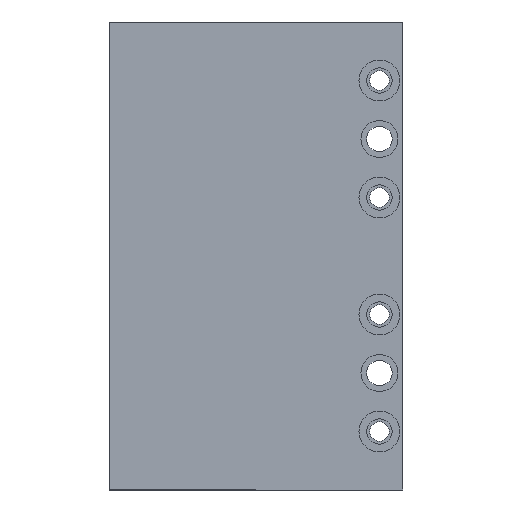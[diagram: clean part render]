
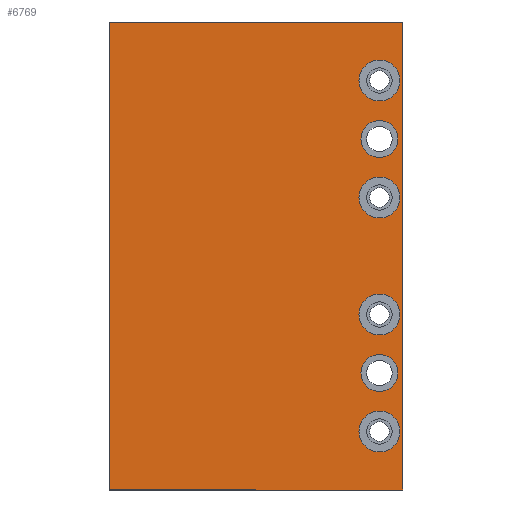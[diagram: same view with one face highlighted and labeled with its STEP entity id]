
A CAD part, left-side view. The second image highlights one B-rep face of the part: STEP entity #6769.
In plain terms, the highlighted planar face has unit normal (-1, 0, 0).
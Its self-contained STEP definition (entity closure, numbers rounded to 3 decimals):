
#35 = EDGE_CURVE ( 'NONE', #11689, #5833, #5302, .T. ) ;
#105 = AXIS2_PLACEMENT_3D ( 'NONE', #2852, #9245, #2821 ) ;
#115 = CIRCLE ( 'NONE', #4381, 5.25 ) ;
#137 = CIRCLE ( 'NONE', #7483, 5.25 ) ;
#184 = CARTESIAN_POINT ( 'NONE',  ( -38.6, 6., 45. ) ) ;
#267 = CARTESIAN_POINT ( 'NONE',  ( -38.6, 6., 15. ) ) ;
#295 = CARTESIAN_POINT ( 'NONE',  ( -38.6, 10.75, 30. ) ) ;
#322 = FACE_BOUND ( 'NONE', #5642, .T. ) ;
#344 = EDGE_CURVE ( 'NONE', #7470, #3552, #10180, .T. ) ;
#437 = AXIS2_PLACEMENT_3D ( 'NONE', #184, #6553, #11095 ) ;
#729 = CARTESIAN_POINT ( 'NONE',  ( -38.6, 75.3, 0. ) ) ;
#803 = ORIENTED_EDGE ( 'NONE', *, *, #11088, .F. ) ;
#931 = VERTEX_POINT ( 'NONE', #10172 ) ;
#966 = CARTESIAN_POINT ( 'NONE',  ( -38.6, 37.65, 60. ) ) ;
#980 = ORIENTED_EDGE ( 'NONE', *, *, #1464, .T. ) ;
#1113 = DIRECTION ( 'NONE',  ( 0., -1., 0. ) ) ;
#1130 = DIRECTION ( 'NONE',  ( -1., 0., 0. ) ) ;
#1390 = CARTESIAN_POINT ( 'NONE',  ( -38.6, 11.25, 45. ) ) ;
#1407 = DIRECTION ( 'NONE',  ( 0., -1., 0. ) ) ;
#1442 = CARTESIAN_POINT ( 'NONE',  ( -38.6, 10.75, 90. ) ) ;
#1464 = EDGE_CURVE ( 'NONE', #4750, #4324, #11449, .T. ) ;
#1476 = DIRECTION ( 'NONE',  ( 0., -1., 0. ) ) ;
#1488 = DIRECTION ( 'NONE',  ( -1., 0., 0. ) ) ;
#1693 = EDGE_CURVE ( 'NONE', #2824, #11087, #11296, .T. ) ;
#1891 = VECTOR ( 'NONE', #4519, 1000. ) ;
#1952 = ORIENTED_EDGE ( 'NONE', *, *, #7499, .F. ) ;
#1977 = DIRECTION ( 'NONE',  ( -1., 0., 0. ) ) ;
#2038 = AXIS2_PLACEMENT_3D ( 'NONE', #4078, #10573, #1476 ) ;
#2072 = DIRECTION ( 'NONE',  ( 0., -1., 0. ) ) ;
#2099 = VERTEX_POINT ( 'NONE', #6983 ) ;
#2173 = DIRECTION ( 'NONE',  ( -1., 0., 0. ) ) ;
#2181 = DIRECTION ( 'NONE',  ( -1., 0., 0. ) ) ;
#2253 = DIRECTION ( 'NONE',  ( -1., 0., 0. ) ) ;
#2525 = EDGE_LOOP ( 'NONE', ( #10352, #4461 ) ) ;
#2543 = DIRECTION ( 'NONE',  ( 0., -1., 0. ) ) ;
#2608 = AXIS2_PLACEMENT_3D ( 'NONE', #267, #10615, #7735 ) ;
#2744 = EDGE_CURVE ( 'NONE', #8317, #9536, #3780, .T. ) ;
#2821 = DIRECTION ( 'NONE',  ( 0., -1., 0. ) ) ;
#2824 = VERTEX_POINT ( 'NONE', #7364 ) ;
#2844 = AXIS2_PLACEMENT_3D ( 'NONE', #5121, #1488, #1407 ) ;
#2852 = CARTESIAN_POINT ( 'NONE',  ( -38.6, 6., 105. ) ) ;
#2856 = PLANE ( 'NONE',  #9575 ) ;
#3001 = EDGE_CURVE ( 'NONE', #2099, #11130, #10367, .T. ) ;
#3007 = ORIENTED_EDGE ( 'NONE', *, *, #10992, .F. ) ;
#3058 = FACE_BOUND ( 'NONE', #4619, .T. ) ;
#3438 = CIRCLE ( 'NONE', #2608, 5.25 ) ;
#3488 = EDGE_LOOP ( 'NONE', ( #5252, #11513 ) ) ;
#3552 = VERTEX_POINT ( 'NONE', #1442 ) ;
#3600 = EDGE_CURVE ( 'NONE', #5236, #931, #3438, .T. ) ;
#3780 = CIRCLE ( 'NONE', #105, 5.25 ) ;
#3811 = ORIENTED_EDGE ( 'NONE', *, *, #7437, .F. ) ;
#3884 = CARTESIAN_POINT ( 'NONE',  ( -38.6, 6., 105. ) ) ;
#4011 = CARTESIAN_POINT ( 'NONE',  ( -38.6, 6., 45. ) ) ;
#4068 = DIRECTION ( 'NONE',  ( 0., 1., 0. ) ) ;
#4078 = CARTESIAN_POINT ( 'NONE',  ( -38.6, 6., 30. ) ) ;
#4121 = EDGE_CURVE ( 'NONE', #11087, #4750, #6683, .T. ) ;
#4124 = CARTESIAN_POINT ( 'NONE',  ( -38.6, 0.75, 105. ) ) ;
#4223 = AXIS2_PLACEMENT_3D ( 'NONE', #11133, #2173, #6666 ) ;
#4324 = VERTEX_POINT ( 'NONE', #729 ) ;
#4377 = AXIS2_PLACEMENT_3D ( 'NONE', #6556, #1977, #1113 ) ;
#4381 = AXIS2_PLACEMENT_3D ( 'NONE', #7484, #1130, #2072 ) ;
#4461 = ORIENTED_EDGE ( 'NONE', *, *, #3600, .F. ) ;
#4476 = CARTESIAN_POINT ( 'NONE',  ( -38.6, 0., 0. ) ) ;
#4519 = DIRECTION ( 'NONE',  ( 0., 0., 1. ) ) ;
#4619 = EDGE_LOOP ( 'NONE', ( #7857, #3007 ) ) ;
#4643 = DIRECTION ( 'NONE',  ( -1., 0., 0. ) ) ;
#4744 = VERTEX_POINT ( 'NONE', #9555 ) ;
#4746 = FACE_BOUND ( 'NONE', #6510, .T. ) ;
#4750 = VERTEX_POINT ( 'NONE', #5847 ) ;
#4948 = LINE ( 'NONE', #11623, #8958 ) ;
#4972 = EDGE_LOOP ( 'NONE', ( #7491, #980, #8010, #8052 ) ) ;
#5121 = CARTESIAN_POINT ( 'NONE',  ( -38.6, 6., 30. ) ) ;
#5236 = VERTEX_POINT ( 'NONE', #9385 ) ;
#5252 = ORIENTED_EDGE ( 'NONE', *, *, #3001, .F. ) ;
#5302 = CIRCLE ( 'NONE', #2844, 4.75 ) ;
#5408 = DIRECTION ( 'NONE',  ( 0., -1., 0. ) ) ;
#5527 = CARTESIAN_POINT ( 'NONE',  ( -38.6, 6., 90. ) ) ;
#5642 = EDGE_LOOP ( 'NONE', ( #803, #11345 ) ) ;
#5710 = DIRECTION ( 'NONE',  ( 0., -1., 0. ) ) ;
#5741 = EDGE_CURVE ( 'NONE', #11130, #2099, #9110, .T. ) ;
#5833 = VERTEX_POINT ( 'NONE', #11054 ) ;
#5847 = CARTESIAN_POINT ( 'NONE',  ( -38.6, 75.3, 120. ) ) ;
#5857 = CARTESIAN_POINT ( 'NONE',  ( -38.6, 0., 120. ) ) ;
#6137 = EDGE_CURVE ( 'NONE', #931, #5236, #8338, .T. ) ;
#6381 = CARTESIAN_POINT ( 'NONE',  ( -38.6, 6., 15. ) ) ;
#6415 = DIRECTION ( 'NONE',  ( 0., 1., 0. ) ) ;
#6418 = CIRCLE ( 'NONE', #4223, 5.25 ) ;
#6510 = EDGE_LOOP ( 'NONE', ( #11383, #3811 ) ) ;
#6553 = DIRECTION ( 'NONE',  ( -1., 0., 0. ) ) ;
#6556 = CARTESIAN_POINT ( 'NONE',  ( -38.6, 6., 90. ) ) ;
#6666 = DIRECTION ( 'NONE',  ( 0., -1., 0. ) ) ;
#6683 = LINE ( 'NONE', #5857, #8555 ) ;
#6728 = FACE_BOUND ( 'NONE', #2525, .T. ) ;
#6769 = ADVANCED_FACE ( 'NONE', ( #4746, #9484, #3058, #322, #6728, #11045, #7717 ), #2856, .F. ) ;
#6983 = CARTESIAN_POINT ( 'NONE',  ( -38.6, 0.75, 45. ) ) ;
#7364 = CARTESIAN_POINT ( 'NONE',  ( -38.6, 0., 0. ) ) ;
#7437 = EDGE_CURVE ( 'NONE', #3552, #7470, #8140, .T. ) ;
#7464 = CARTESIAN_POINT ( 'NONE',  ( -38.6, 0., 120. ) ) ;
#7470 = VERTEX_POINT ( 'NONE', #10378 ) ;
#7483 = AXIS2_PLACEMENT_3D ( 'NONE', #3884, #2253, #5710 ) ;
#7484 = CARTESIAN_POINT ( 'NONE',  ( -38.6, 6., 75. ) ) ;
#7491 = ORIENTED_EDGE ( 'NONE', *, *, #4121, .T. ) ;
#7499 = EDGE_CURVE ( 'NONE', #9536, #8317, #137, .T. ) ;
#7717 = FACE_OUTER_BOUND ( 'NONE', #4972, .T. ) ;
#7735 = DIRECTION ( 'NONE',  ( 0., -1., 0. ) ) ;
#7746 = CARTESIAN_POINT ( 'NONE',  ( -38.6, 11.25, 105. ) ) ;
#7857 = ORIENTED_EDGE ( 'NONE', *, *, #11464, .F. ) ;
#7990 = VECTOR ( 'NONE', #8581, 1000. ) ;
#8010 = ORIENTED_EDGE ( 'NONE', *, *, #10517, .T. ) ;
#8052 = ORIENTED_EDGE ( 'NONE', *, *, #1693, .T. ) ;
#8117 = DIRECTION ( 'NONE',  ( -1., 0., 0. ) ) ;
#8140 = CIRCLE ( 'NONE', #4377, 4.75 ) ;
#8314 = AXIS2_PLACEMENT_3D ( 'NONE', #6381, #4643, #10065 ) ;
#8317 = VERTEX_POINT ( 'NONE', #4124 ) ;
#8338 = CIRCLE ( 'NONE', #8314, 5.25 ) ;
#8555 = VECTOR ( 'NONE', #4068, 1000. ) ;
#8581 = DIRECTION ( 'NONE',  ( 0., 0., -1. ) ) ;
#8599 = ORIENTED_EDGE ( 'NONE', *, *, #2744, .F. ) ;
#8800 = VERTEX_POINT ( 'NONE', #9417 ) ;
#8958 = VECTOR ( 'NONE', #2543, 1000. ) ;
#9110 = CIRCLE ( 'NONE', #437, 5.25 ) ;
#9245 = DIRECTION ( 'NONE',  ( -1., 0., 0. ) ) ;
#9385 = CARTESIAN_POINT ( 'NONE',  ( -38.6, 11.25, 15. ) ) ;
#9417 = CARTESIAN_POINT ( 'NONE',  ( -38.6, 0.75, 75. ) ) ;
#9439 = DIRECTION ( 'NONE',  ( 0., -1., 0. ) ) ;
#9484 = FACE_BOUND ( 'NONE', #10687, .T. ) ;
#9506 = AXIS2_PLACEMENT_3D ( 'NONE', #5527, #8117, #5408 ) ;
#9536 = VERTEX_POINT ( 'NONE', #7746 ) ;
#9555 = CARTESIAN_POINT ( 'NONE',  ( -38.6, 11.25, 75. ) ) ;
#9575 = AXIS2_PLACEMENT_3D ( 'NONE', #966, #11874, #6415 ) ;
#10065 = DIRECTION ( 'NONE',  ( 0., -1., 0. ) ) ;
#10094 = AXIS2_PLACEMENT_3D ( 'NONE', #4011, #2181, #9439 ) ;
#10172 = CARTESIAN_POINT ( 'NONE',  ( -38.6, 0.75, 15. ) ) ;
#10180 = CIRCLE ( 'NONE', #9506, 4.75 ) ;
#10352 = ORIENTED_EDGE ( 'NONE', *, *, #6137, .F. ) ;
#10367 = CIRCLE ( 'NONE', #10094, 5.25 ) ;
#10378 = CARTESIAN_POINT ( 'NONE',  ( -38.6, 1.25, 90. ) ) ;
#10517 = EDGE_CURVE ( 'NONE', #4324, #2824, #4948, .T. ) ;
#10573 = DIRECTION ( 'NONE',  ( -1., 0., 0. ) ) ;
#10615 = DIRECTION ( 'NONE',  ( -1., 0., 0. ) ) ;
#10687 = EDGE_LOOP ( 'NONE', ( #8599, #1952 ) ) ;
#10992 = EDGE_CURVE ( 'NONE', #4744, #8800, #6418, .T. ) ;
#11045 = FACE_BOUND ( 'NONE', #3488, .T. ) ;
#11054 = CARTESIAN_POINT ( 'NONE',  ( -38.6, 1.25, 30. ) ) ;
#11087 = VERTEX_POINT ( 'NONE', #7464 ) ;
#11088 = EDGE_CURVE ( 'NONE', #5833, #11689, #11721, .T. ) ;
#11095 = DIRECTION ( 'NONE',  ( 0., -1., 0. ) ) ;
#11130 = VERTEX_POINT ( 'NONE', #1390 ) ;
#11133 = CARTESIAN_POINT ( 'NONE',  ( -38.6, 6., 75. ) ) ;
#11296 = LINE ( 'NONE', #4476, #1891 ) ;
#11305 = CARTESIAN_POINT ( 'NONE',  ( -38.6, 75.3, 0. ) ) ;
#11345 = ORIENTED_EDGE ( 'NONE', *, *, #35, .F. ) ;
#11383 = ORIENTED_EDGE ( 'NONE', *, *, #344, .F. ) ;
#11449 = LINE ( 'NONE', #11305, #7990 ) ;
#11464 = EDGE_CURVE ( 'NONE', #8800, #4744, #115, .T. ) ;
#11513 = ORIENTED_EDGE ( 'NONE', *, *, #5741, .F. ) ;
#11623 = CARTESIAN_POINT ( 'NONE',  ( -38.6, 0., 0. ) ) ;
#11689 = VERTEX_POINT ( 'NONE', #295 ) ;
#11721 = CIRCLE ( 'NONE', #2038, 4.75 ) ;
#11874 = DIRECTION ( 'NONE',  ( 1., 0., 0. ) ) ;
